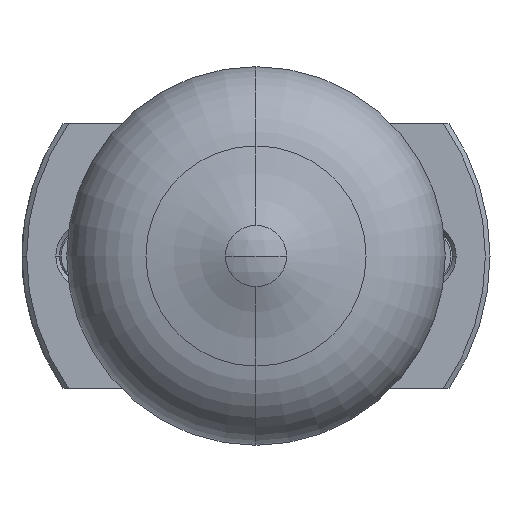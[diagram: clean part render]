
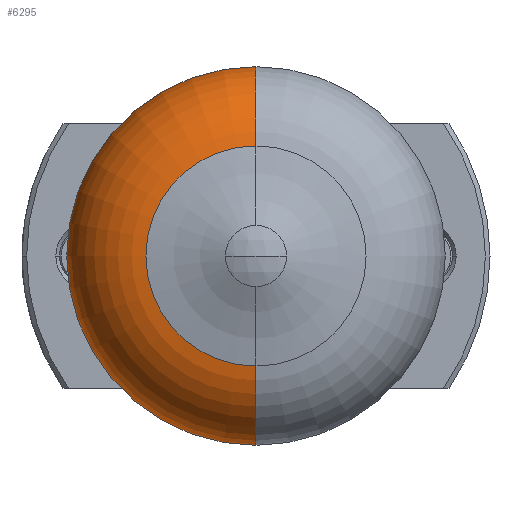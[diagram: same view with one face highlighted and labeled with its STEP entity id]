
A CAD part, left-side view. The second image highlights one B-rep face of the part: STEP entity #6295.
In plain terms, the highlighted toroidal (fillet/blend) face has major radius 2.05 mm and minor radius 2 mm.
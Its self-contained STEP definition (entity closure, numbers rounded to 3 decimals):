
#15 = CARTESIAN_POINT ( 'NONE',  ( -9.4, 0., 4.05 ) ) ;
#970 = CARTESIAN_POINT ( 'NONE',  ( -11.377, 0., 2.355 ) ) ;
#996 = DIRECTION ( 'NONE',  ( -1., 0., 0. ) ) ;
#999 = EDGE_CURVE ( 'NONE', #11013, #3034, #2736, .T. ) ;
#1054 = CIRCLE ( 'NONE', #8524, 2. ) ;
#1066 = AXIS2_PLACEMENT_3D ( 'NONE', #9663, #6202, #2745 ) ;
#1389 = ORIENTED_EDGE ( 'NONE', *, *, #4106, .F. ) ;
#1452 = TOROIDAL_SURFACE ( 'NONE', #5154, 2.05, 2. ) ;
#1548 = EDGE_CURVE ( 'NONE', #3034, #6380, #7009, .T. ) ;
#1859 = CARTESIAN_POINT ( 'NONE',  ( -9.4, 0., -2.05 ) ) ;
#2000 = FACE_OUTER_BOUND ( 'NONE', #9382, .T. ) ;
#2058 = ORIENTED_EDGE ( 'NONE', *, *, #2472, .F. ) ;
#2472 = EDGE_CURVE ( 'NONE', #11013, #5808, #1054, .T. ) ;
#2609 = CARTESIAN_POINT ( 'NONE',  ( -9.4, 0., 0. ) ) ;
#2736 = CIRCLE ( 'NONE', #7641, 4.05 ) ;
#2745 = DIRECTION ( 'NONE',  ( 0., 0., 1. ) ) ;
#3034 = VERTEX_POINT ( 'NONE', #7159 ) ;
#3169 = CIRCLE ( 'NONE', #1066, 2.355 ) ;
#3380 = DIRECTION ( 'NONE',  ( -1., 0., 0. ) ) ;
#3839 = DIRECTION ( 'NONE',  ( 0., 0., 1. ) ) ;
#3868 = DIRECTION ( 'NONE',  ( 0., 1., 0. ) ) ;
#4106 = EDGE_CURVE ( 'NONE', #5808, #6380, #3169, .T. ) ;
#5154 = AXIS2_PLACEMENT_3D ( 'NONE', #6141, #996, #5342 ) ;
#5342 = DIRECTION ( 'NONE',  ( 0., 0., 1. ) ) ;
#5385 = DIRECTION ( 'NONE',  ( 0., 0., -1. ) ) ;
#5808 = VERTEX_POINT ( 'NONE', #970 ) ;
#6061 = AXIS2_PLACEMENT_3D ( 'NONE', #1859, #3868, #3839 ) ;
#6141 = CARTESIAN_POINT ( 'NONE',  ( -9.4, 0., 0. ) ) ;
#6202 = DIRECTION ( 'NONE',  ( -1., 0., 0. ) ) ;
#6295 = ADVANCED_FACE ( 'NONE', ( #2000 ), #1452, .T. ) ;
#6380 = VERTEX_POINT ( 'NONE', #9544 ) ;
#7009 = CIRCLE ( 'NONE', #6061, 2. ) ;
#7159 = CARTESIAN_POINT ( 'NONE',  ( -9.4, 0., -4.05 ) ) ;
#7641 = AXIS2_PLACEMENT_3D ( 'NONE', #2609, #3380, #10338 ) ;
#8524 = AXIS2_PLACEMENT_3D ( 'NONE', #10514, #8854, #5385 ) ;
#8854 = DIRECTION ( 'NONE',  ( 0., -1., 0. ) ) ;
#9382 = EDGE_LOOP ( 'NONE', ( #9642, #9494, #1389, #2058 ) ) ;
#9494 = ORIENTED_EDGE ( 'NONE', *, *, #1548, .T. ) ;
#9544 = CARTESIAN_POINT ( 'NONE',  ( -11.377, 0., -2.355 ) ) ;
#9642 = ORIENTED_EDGE ( 'NONE', *, *, #999, .T. ) ;
#9663 = CARTESIAN_POINT ( 'NONE',  ( -11.377, 0., 0. ) ) ;
#10338 = DIRECTION ( 'NONE',  ( 0., 0., 1. ) ) ;
#10514 = CARTESIAN_POINT ( 'NONE',  ( -9.4, 0., 2.05 ) ) ;
#11013 = VERTEX_POINT ( 'NONE', #15 ) ;
